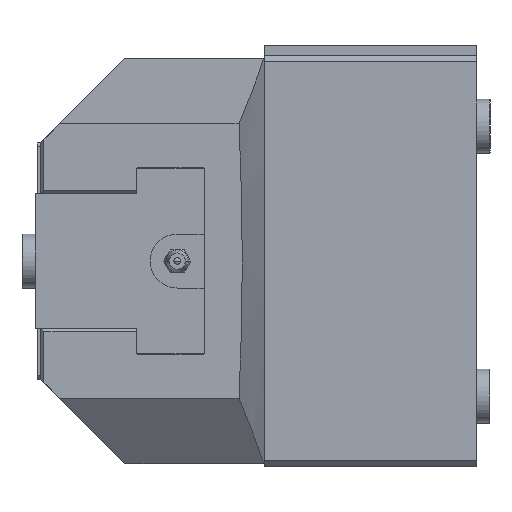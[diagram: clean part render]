
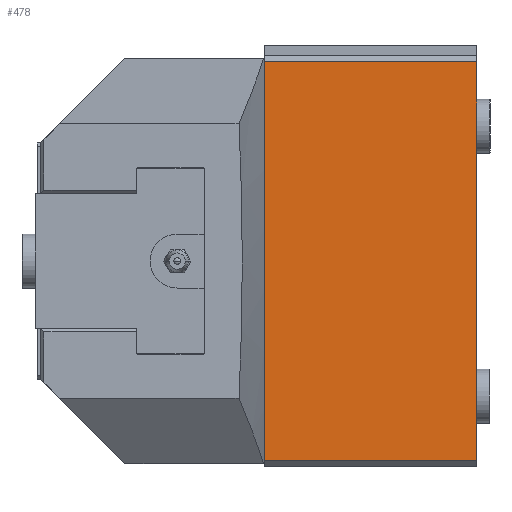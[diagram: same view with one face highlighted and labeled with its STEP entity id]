
A CAD part, left-side view. The second image highlights one B-rep face of the part: STEP entity #478.
In plain terms, the highlighted planar face has unit normal (-1, 0, 0).
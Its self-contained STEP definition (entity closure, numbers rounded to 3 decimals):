
#478 = ADVANCED_FACE ( 'NONE', ( #558 ), #1943, .F. ) ;
#558 = FACE_OUTER_BOUND ( 'NONE', #15638, .T. ) ;
#649 = DIRECTION ( 'NONE',  ( 1., 0., 0. ) ) ;
#697 = EDGE_CURVE ( 'NONE', #16943, #11828, #11901, .T. ) ;
#1103 = ORIENTED_EDGE ( 'NONE', *, *, #6383, .T. ) ;
#1729 = EDGE_CURVE ( 'NONE', #11828, #3283, #14334, .T. ) ;
#1943 = PLANE ( 'NONE',  #8904 ) ;
#2863 = VECTOR ( 'NONE', #9164, 1000. ) ;
#3189 = VECTOR ( 'NONE', #14360, 1000. ) ;
#3283 = VERTEX_POINT ( 'NONE', #17019 ) ;
#3435 = VECTOR ( 'NONE', #4636, 1000. ) ;
#4463 = LINE ( 'NONE', #5871, #3189 ) ;
#4636 = DIRECTION ( 'NONE',  ( 0., -1., 0. ) ) ;
#5871 = CARTESIAN_POINT ( 'NONE',  ( -93., 62.9, 64. ) ) ;
#6042 = ORIENTED_EDGE ( 'NONE', *, *, #1729, .T. ) ;
#6383 = EDGE_CURVE ( 'NONE', #3283, #17265, #17386, .T. ) ;
#8436 = CARTESIAN_POINT ( 'NONE',  ( -93., 62.9, 59. ) ) ;
#8904 = AXIS2_PLACEMENT_3D ( 'NONE', #13337, #649, #17632 ) ;
#9164 = DIRECTION ( 'NONE',  ( 0., 0., 1. ) ) ;
#11828 = VERTEX_POINT ( 'NONE', #14076 ) ;
#11901 = LINE ( 'NONE', #14524, #3435 ) ;
#12850 = ORIENTED_EDGE ( 'NONE', *, *, #16542, .F. ) ;
#13337 = CARTESIAN_POINT ( 'NONE',  ( -93., 62.9, 64. ) ) ;
#14076 = CARTESIAN_POINT ( 'NONE',  ( -93., 0., -59. ) ) ;
#14241 = CARTESIAN_POINT ( 'NONE',  ( -93., 0., 64. ) ) ;
#14312 = VECTOR ( 'NONE', #15902, 1000. ) ;
#14334 = LINE ( 'NONE', #14241, #2863 ) ;
#14360 = DIRECTION ( 'NONE',  ( 0., 0., 1. ) ) ;
#14524 = CARTESIAN_POINT ( 'NONE',  ( -93., 62.9, -59. ) ) ;
#15558 = ORIENTED_EDGE ( 'NONE', *, *, #697, .T. ) ;
#15638 = EDGE_LOOP ( 'NONE', ( #6042, #1103, #12850, #15558 ) ) ;
#15719 = CARTESIAN_POINT ( 'NONE',  ( -93., 62.9, 59. ) ) ;
#15902 = DIRECTION ( 'NONE',  ( 0., 1., 0. ) ) ;
#16542 = EDGE_CURVE ( 'NONE', #16943, #17265, #4463, .T. ) ;
#16943 = VERTEX_POINT ( 'NONE', #17226 ) ;
#17019 = CARTESIAN_POINT ( 'NONE',  ( -93., 0., 59. ) ) ;
#17226 = CARTESIAN_POINT ( 'NONE',  ( -93., 62.9, -59. ) ) ;
#17265 = VERTEX_POINT ( 'NONE', #8436 ) ;
#17386 = LINE ( 'NONE', #15719, #14312 ) ;
#17632 = DIRECTION ( 'NONE',  ( 0., 0., -1. ) ) ;
